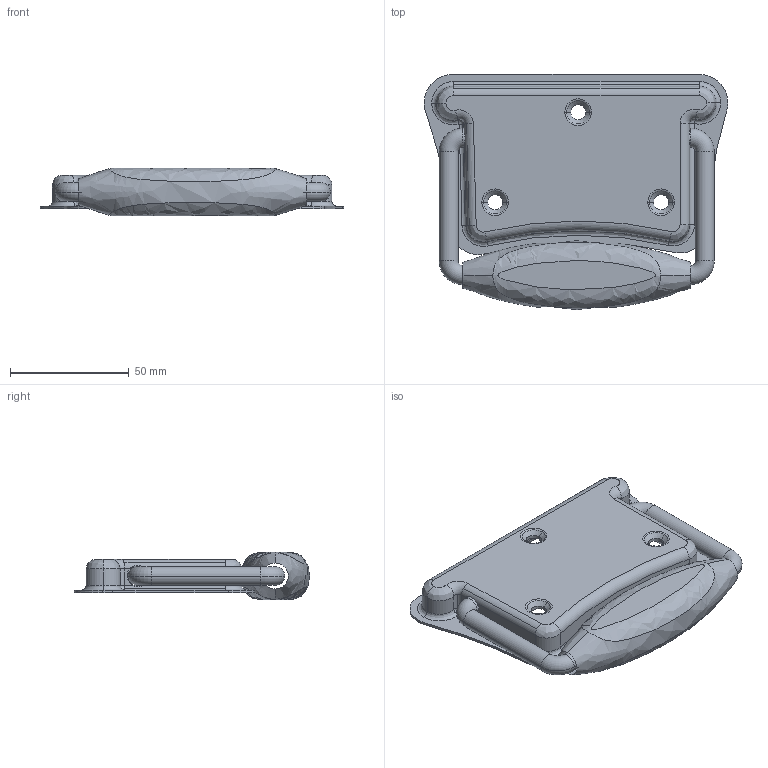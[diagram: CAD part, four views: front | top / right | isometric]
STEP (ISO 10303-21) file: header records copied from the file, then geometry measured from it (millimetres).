
FILE_DESCRIPTION((''),'2;1');
FILE_NAME('3103.stp','2017-07-04T08:44:55',(''),(''),'Mechanical Desktop 2006','Mechanical Desktop 2006',', , ');
FILE_SCHEMA(('AUTOMOTIVE_DESIGN { 1 2 10303 214 0 1 1 1 }'));
Length unit declared in the file: millimetre
Products named in the file (4): 3103; TEIL1; TEIL2; DREHFEDERN - 1.000000 X 10.000000 X 10.000000
Assembly tree (3 placements, depth 2):
  3103
    TEIL1
    TEIL2
    DREHFEDERN - 1.000000 X 10.000000 X 10.000000
Bounding box: 128.05 x 99.26 x 20 mm (x, y, z)
Volume: 53545.3 mm3; surface area: 42447.9 mm2
Topology: 4 solids, 4 shells, 555 faces, 1693 edges, 1139 vertices
Faces by surface type: cylinder 251, torus 238, bspline 32, plane 22, cone 12
Entity records: 22457 total; most frequent: CARTESIAN_POINT 5840, DIRECTION 4099, ORIENTED_EDGE 3378, AXIS2_PLACEMENT_3D 1903, EDGE_CURVE 1689, CIRCLE 1372, VERTEX_POINT 1138, EDGE_LOOP 563
